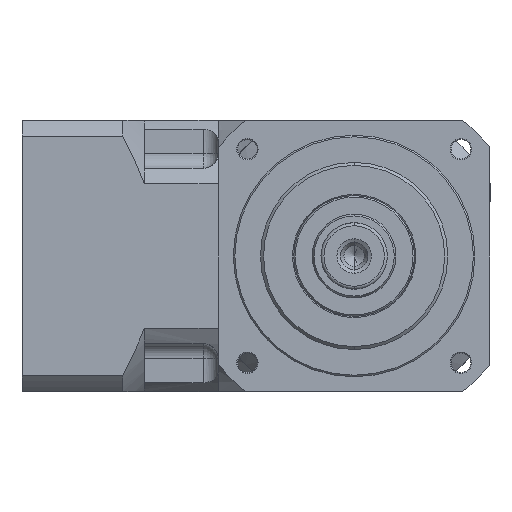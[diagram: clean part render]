
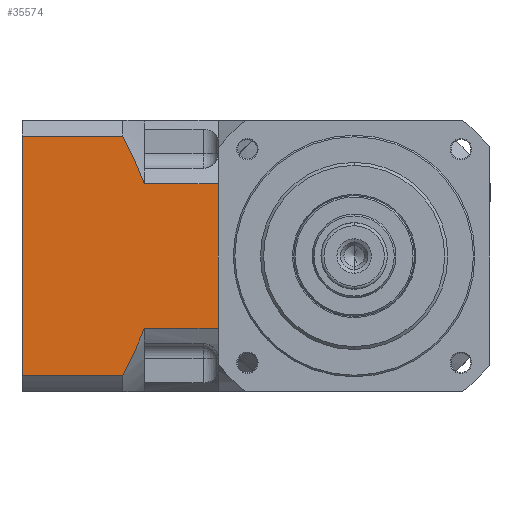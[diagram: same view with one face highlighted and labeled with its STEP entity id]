
A CAD part, left-side view. The second image highlights one B-rep face of the part: STEP entity #35574.
In plain terms, the highlighted planar face has unit normal (-1, 0, 0).
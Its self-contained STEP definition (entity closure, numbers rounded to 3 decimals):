
#840 = EDGE_CURVE ( 'NONE', #28886, #20295, #38084, .T. ) ;
#1213 = PLANE ( 'NONE',  #31499 ) ;
#1680 = CARTESIAN_POINT ( 'NONE',  ( 45.5, 76.62, -39.686 ) ) ;
#2715 = CARTESIAN_POINT ( 'NONE',  ( 45.5, 45., 45. ) ) ;
#2732 = CARTESIAN_POINT ( 'NONE',  ( 45.5, 76.62, -39.686 ) ) ;
#3000 = CARTESIAN_POINT ( 'NONE',  ( 45.5, 71.612, -29.326 ) ) ;
#3121 = CARTESIAN_POINT ( 'NONE',  ( 45.5, 75.955, -38.415 ) ) ;
#3194 = CARTESIAN_POINT ( 'NONE',  ( 45.5, 110., 39.686 ) ) ;
#3647 = DIRECTION ( 'NONE',  ( 0., -1., 0. ) ) ;
#3923 = CARTESIAN_POINT ( 'NONE',  ( 45.5, 110., 0. ) ) ;
#4131 = CARTESIAN_POINT ( 'NONE',  ( 45.5, 76.62, 39.686 ) ) ;
#4226 = EDGE_LOOP ( 'NONE', ( #15493, #20067, #4890, #10805, #29450, #15088, #7515, #31015 ) ) ;
#4756 = VERTEX_POINT ( 'NONE', #22596 ) ;
#4890 = ORIENTED_EDGE ( 'NONE', *, *, #9000, .F. ) ;
#6064 = VERTEX_POINT ( 'NONE', #33318 ) ;
#6098 = VECTOR ( 'NONE', #33458, 1000. ) ;
#6398 = CARTESIAN_POINT ( 'NONE',  ( 45.5, 59., 39.686 ) ) ;
#6918 = DIRECTION ( 'NONE',  ( 0., 0., -1. ) ) ;
#7515 = ORIENTED_EDGE ( 'NONE', *, *, #17696, .F. ) ;
#8336 = VERTEX_POINT ( 'NONE', #24762 ) ;
#8577 = CARTESIAN_POINT ( 'NONE',  ( 45.5, 70.498, -26.682 ) ) ;
#9000 = EDGE_CURVE ( 'NONE', #15764, #6064, #29705, .T. ) ;
#9253 = EDGE_CURVE ( 'NONE', #8336, #4756, #23204, .T. ) ;
#10128 = DIRECTION ( 'NONE',  ( 0., 1., 0. ) ) ;
#10655 = CARTESIAN_POINT ( 'NONE',  ( 45.5, 71.621, 29.346 ) ) ;
#10805 = ORIENTED_EDGE ( 'NONE', *, *, #14406, .F. ) ;
#11185 = VERTEX_POINT ( 'NONE', #4131 ) ;
#11727 = DIRECTION ( 'NONE',  ( 0., 1., 0. ) ) ;
#11999 = CARTESIAN_POINT ( 'NONE',  ( 45.5, 110., -39.686 ) ) ;
#12072 = FACE_OUTER_BOUND ( 'NONE', #4226, .T. ) ;
#13090 = CARTESIAN_POINT ( 'NONE',  ( 45.5, 66.5, 24. ) ) ;
#13252 = B_SPLINE_CURVE_WITH_KNOTS ( 'NONE', 3,
 ( #26441, #8577, #3000, #23752, #23887, #23494, #3121, #2732 ),
 .UNSPECIFIED., .F., .F.,
 ( 4, 2, 2, 4 ),
 ( 0.138, 0.147, 0.151, 0.155 ),
 .UNSPECIFIED. ) ;
#13783 = CARTESIAN_POINT ( 'NONE',  ( 45.5, 69.5, 24. ) ) ;
#14174 = B_SPLINE_CURVE_WITH_KNOTS ( 'NONE', 3,
 ( #31511, #25483, #28435, #10655, #16638, #13783 ),
 .UNSPECIFIED., .F., .F.,
 ( 4, 2, 4 ),
 ( 0.072, 0.081, 0.089 ),
 .UNSPECIFIED. ) ;
#14406 = EDGE_CURVE ( 'NONE', #4756, #15764, #22871, .T. ) ;
#15088 = ORIENTED_EDGE ( 'NONE', *, *, #19682, .F. ) ;
#15282 = VECTOR ( 'NONE', #36287, 1000. ) ;
#15493 = ORIENTED_EDGE ( 'NONE', *, *, #36534, .F. ) ;
#15764 = VERTEX_POINT ( 'NONE', #25979 ) ;
#16638 = CARTESIAN_POINT ( 'NONE',  ( 45.5, 70.505, 26.699 ) ) ;
#17696 = EDGE_CURVE ( 'NONE', #28886, #11185, #28960, .T. ) ;
#18339 = VERTEX_POINT ( 'NONE', #1680 ) ;
#18668 = VECTOR ( 'NONE', #23481, 1000. ) ;
#19682 = EDGE_CURVE ( 'NONE', #11185, #8336, #14174, .T. ) ;
#20067 = ORIENTED_EDGE ( 'NONE', *, *, #28158, .F. ) ;
#20209 = CARTESIAN_POINT ( 'NONE',  ( 45.5, 59., -39.686 ) ) ;
#20257 = VECTOR ( 'NONE', #11727, 1000. ) ;
#20295 = VERTEX_POINT ( 'NONE', #11999 ) ;
#22596 = CARTESIAN_POINT ( 'NONE',  ( 45.5, 45., 24. ) ) ;
#22871 = LINE ( 'NONE', #2715, #18668 ) ;
#23204 = LINE ( 'NONE', #13090, #15282 ) ;
#23481 = DIRECTION ( 'NONE',  ( 0., 0., -1. ) ) ;
#23494 = CARTESIAN_POINT ( 'NONE',  ( 45.5, 75.303, -37.135 ) ) ;
#23752 = CARTESIAN_POINT ( 'NONE',  ( 45.5, 73.41, -33.252 ) ) ;
#23887 = CARTESIAN_POINT ( 'NONE',  ( 45.5, 74.031, -34.554 ) ) ;
#24762 = CARTESIAN_POINT ( 'NONE',  ( 45.5, 69.5, 24. ) ) ;
#24989 = CARTESIAN_POINT ( 'NONE',  ( 45.5, 66.5, -24. ) ) ;
#25064 = DIRECTION ( 'NONE',  ( 1., 0., 0. ) ) ;
#25483 = CARTESIAN_POINT ( 'NONE',  ( 45.5, 75.288, 37.14 ) ) ;
#25979 = CARTESIAN_POINT ( 'NONE',  ( 45.5, 45., -24. ) ) ;
#26441 = CARTESIAN_POINT ( 'NONE',  ( 45.5, 69.5, -24. ) ) ;
#27556 = VECTOR ( 'NONE', #3647, 1000. ) ;
#27624 = LINE ( 'NONE', #20209, #20257 ) ;
#27867 = CARTESIAN_POINT ( 'NONE',  ( 45.5, 54.5, 0. ) ) ;
#28158 = EDGE_CURVE ( 'NONE', #6064, #18339, #13252, .T. ) ;
#28435 = CARTESIAN_POINT ( 'NONE',  ( 45.5, 74.013, 34.566 ) ) ;
#28886 = VERTEX_POINT ( 'NONE', #3194 ) ;
#28960 = LINE ( 'NONE', #6398, #27556 ) ;
#29450 = ORIENTED_EDGE ( 'NONE', *, *, #9253, .F. ) ;
#29705 = LINE ( 'NONE', #24989, #6098 ) ;
#30171 = VECTOR ( 'NONE', #6918, 1000. ) ;
#31015 = ORIENTED_EDGE ( 'NONE', *, *, #840, .T. ) ;
#31499 = AXIS2_PLACEMENT_3D ( 'NONE', #27867, #25064, #10128 ) ;
#31511 = CARTESIAN_POINT ( 'NONE',  ( 45.5, 76.62, 39.686 ) ) ;
#33318 = CARTESIAN_POINT ( 'NONE',  ( 45.5, 69.5, -24. ) ) ;
#33458 = DIRECTION ( 'NONE',  ( 0., 1., 0. ) ) ;
#35574 = ADVANCED_FACE ( 'NONE', ( #12072 ), #1213, .F. ) ;
#36287 = DIRECTION ( 'NONE',  ( 0., -1., 0. ) ) ;
#36534 = EDGE_CURVE ( 'NONE', #18339, #20295, #27624, .T. ) ;
#38084 = LINE ( 'NONE', #3923, #30171 ) ;
